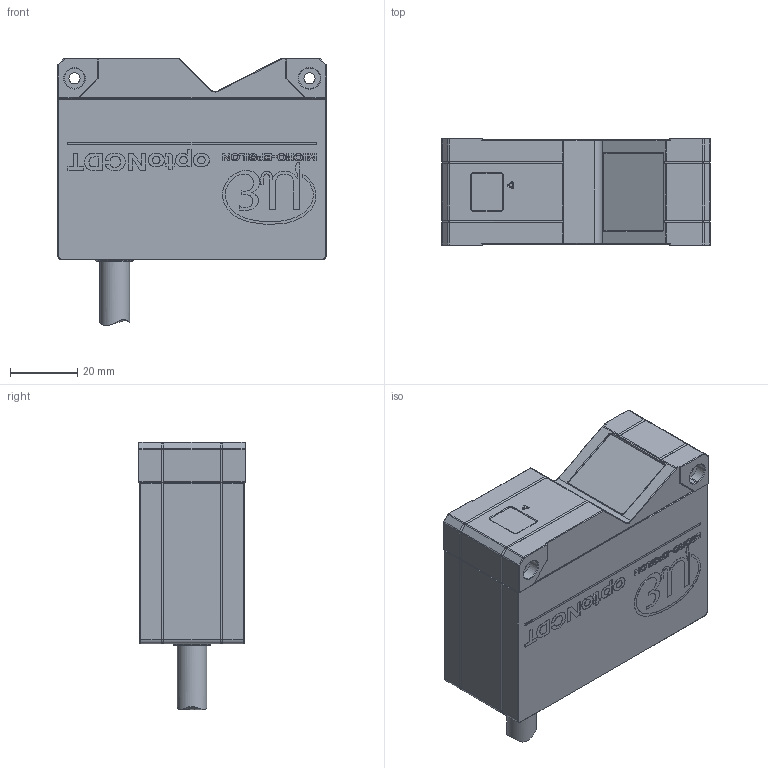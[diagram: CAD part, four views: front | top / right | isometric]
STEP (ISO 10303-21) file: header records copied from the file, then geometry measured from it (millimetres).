
FILE_DESCRIPTION (( 'STEP AP214' ), '1' );
FILE_NAME ('ILD5500-25_Sensormodell.STEP', '2024-11-27T08:18:17', ( '' ), ( '' ), 'SwSTEP 2.0', 'SolidWorks 2022', '' );
FILE_SCHEMA (( 'AUTOMOTIVE_DESIGN' ));
Length unit declared in the file: millimetre
Products named in the file (1): ILD5500-25_Sensormodell
Bounding box: 80 x 32 x 79.66 mm (x, y, z)
Volume: 143216.4 mm3; surface area: 21314.8 mm2
Topology: 1 solids, 4 shells, 1673 faces, 4435 edges, 2889 vertices
Faces by surface type: plane 809, bspline 673, cylinder 115, cone 62, torus 14
Full cylindrical faces by diameter (mm): 0.7 x1, 2.4 x2, 3.3 x2, 3.5 x1, 6 x2, 8.8 x1, 10 x2, 10.5 x2
Entity records: 80595 total; most frequent: CARTESIAN_POINT 25610, ORIENTED_EDGE 8762, DIRECTION 5276, EDGE_CURVE 4381, VERTEX_POINT 2871, LINE 2732, VECTOR 2732, EDGE_LOOP 1832
